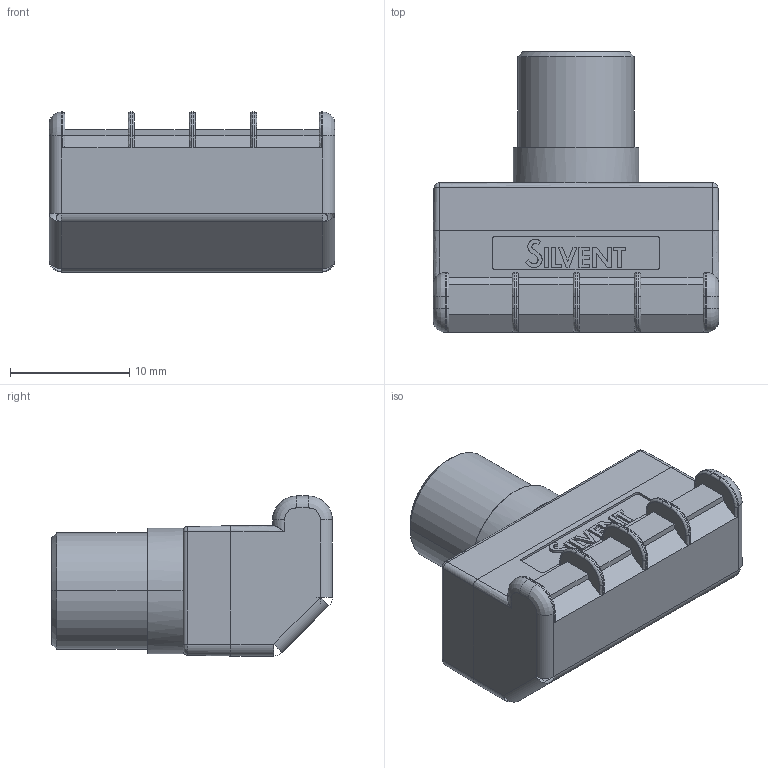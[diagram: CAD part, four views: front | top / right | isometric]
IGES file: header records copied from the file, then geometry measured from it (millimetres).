
Start section: SolidWorks IGES FILE using analytic representation for surfaces
Global section: file name: G:\Silvent\Ritningar\Övrigt\IGES\Silvent 961.IGS; native system: SolidWorks 2003 by SolidWorks Corporation; preprocessor: Version 5.3; author: Ulf; date: 030923.134221; units: millimetre
Bounding box: 23.9 x 23.5 x 13.4 mm (x, y, z)
Surface area: 1730.4 mm2 (no closed solid volume)
Topology: 0 solids, 0 shells, 221 faces, 1568 edges, 1566 vertices
Faces by surface type: bspline 145, revolution 76
